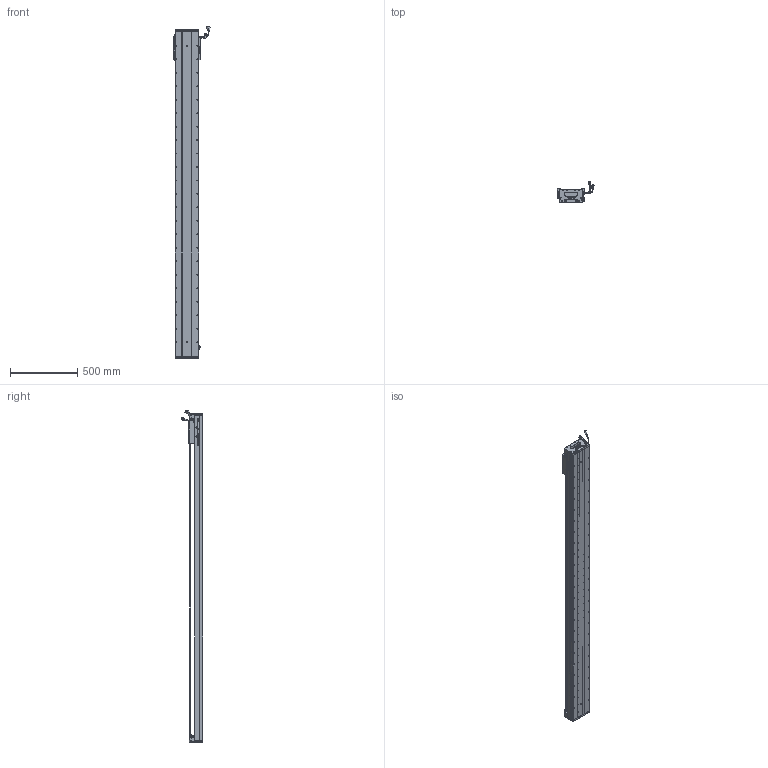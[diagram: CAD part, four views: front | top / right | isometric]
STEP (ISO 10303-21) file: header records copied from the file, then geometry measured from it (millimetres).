
FILE_DESCRIPTION (( 'STEP AP203' ), '1' );
FILE_NAME ('Z2-RY170D-1-L500-B-K.SLDASM_2150.step', '2021-05-17T09:10:01', ( '盈信电脑' ), ( '东莞市道滘镇水果街19号' ), 'SwSTEP 2.0', 'SolidWorks 2016', '' );
FILE_SCHEMA (( 'CONFIG_CONTROL_DESIGN' ));
Length unit declared in the file: millimetre
Products named in the file (36): HARNESS-Part-1; 170-Z-臏賑輸盄裔(21遴); SCREW-M1.7; SCREW-M1.6-3; SCREW-M1.6; Z2-RY170臏賑輸(21遴); PBU_SHEET; 榋妏寠巭燃_暯_M2_2; LABEL; 覜茼ん672; HARNESS-Part-2; 080黍杅芛假蚾釱21遴; SCREW-M1.7-1; Z-RY170詩湍狟揤裔; Z-RY170詩湍奻揤裔; HARNESS; SHIELDPLATE; Z2-RY170-L500耀郪菁釱_2150; SCALE-Part-1; LABEL-Part-1; 140蚥薯蝶輸; RY170直线电机感应器672光电感应片; SEAL-Part-1; SCREW-M1.6-1; SEAL; SCALE; Z2-RY170-L500詩湍145mm遵_2150; COVER-Part-1; COVER; Z-170詩湍傷裔啣; 140雄赽晤鎢ん堤盄; HOLDER0; SCALE-Part-2; Z2-RY170D-1-L500-B-K.SLDASM_2150; SCREW-M1.6-2; PSLH080_PSLF2
Assembly tree (41 placements, depth 4):
  Z2-RY170D-1-L500-B-K.SLDASM_2150
    Z2-RY170-L500耀郪菁釱_2150
    RY170直线电机感应器672光电感应片
    Z2-RY170臏賑輸(21遴)
    覜茼ん672  x3
    PSLH080_PSLF2
      SCALE
        SCALE-Part-1
        SCALE-Part-2
      HARNESS
        HARNESS-Part-1
        HARNESS-Part-2
      LABEL
        LABEL-Part-1
      COVER
        COVER-Part-1
      SEAL
        SEAL-Part-1
      榋妏寠巭燃_暯_M2_2
      SHIELDPLATE
      SCREW-M1.7
      SCREW-M1.7-1
      PBU_SHEET
      SCREW-M1.6
      SCREW-M1.6-1
      SCREW-M1.6-2
      SCREW-M1.6-3
      HOLDER0
    080黍杅芛假蚾釱21遴
    Z2-RY170-L500詩湍145mm遵_2150
    Z-170詩湍傷裔啣  x2
    Z-RY170詩湍奻揤裔  x2
    Z-RY170詩湍狟揤裔  x2
    140蚥薯蝶輸  x2
    170-Z-臏賑輸盄裔(21遴)
    140雄赽晤鎢ん堤盄
Bounding box: 275.34 x 158.11 x 2463.72 mm (x, y, z)
Volume: 12137701 mm3; surface area: 3003755 mm2
Topology: 36 solids, 36 shells, 3904 faces, 10775 edges, 6731 vertices
Faces by surface type: cylinder 1942, plane 1288, cone 552, torus 69, bspline 53
Entity records: 121831 total; most frequent: CARTESIAN_POINT 33708, ORIENTED_EDGE 18050, DIRECTION 16945, EDGE_CURVE 9025, AXIS2_PLACEMENT_3D 6242, VERTEX_POINT 5849, LINE 4461, VECTOR 4461
